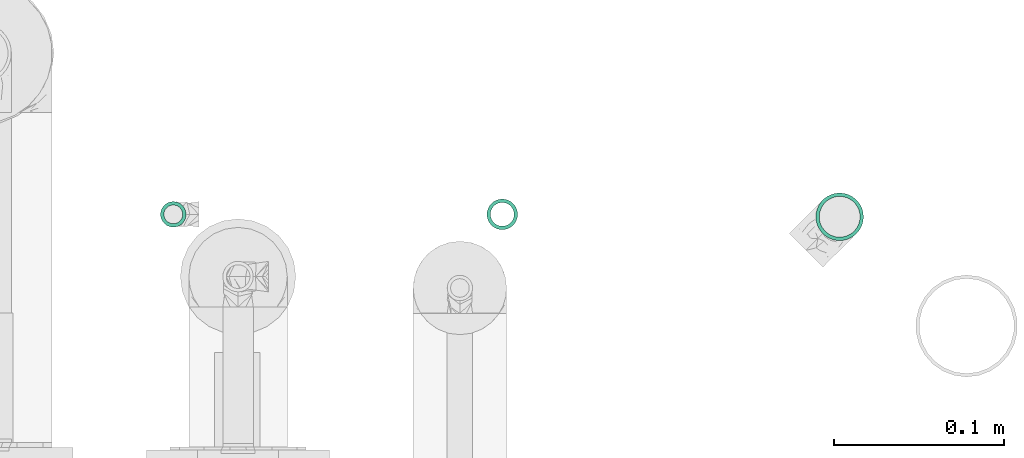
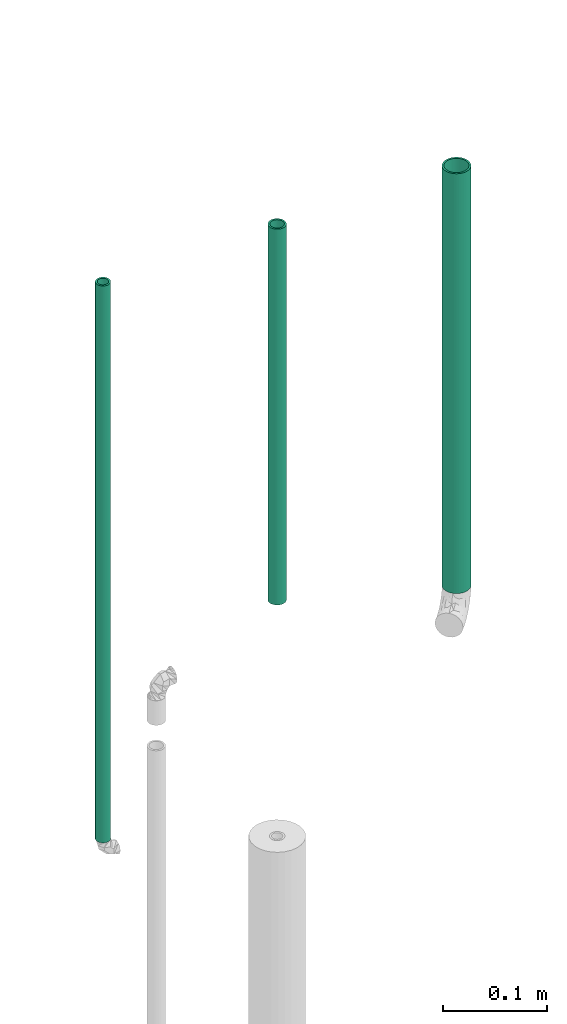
# One storey, part 50 of 78: 3 flow segments.
"""IFC2X3 building model written with IfcOpenShell, lengths in millimetres."""

from ifc_helpers import new_model, entity, si_unit, converted_unit, derived_unit, direction, frame, place, context, subcontext, project, spatial, faceted_brep, type_object, element, save


model = new_model("IFC2X3")

# Units and contexts
model_context = context("Model", 3, precision=0.01, world=frame((0.0, 4.29681676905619e-09, 0.0)), true_north=direction((4.01073788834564e-13, 1.0)))
plan_context = context("Plan", 3, precision=0.01, world=frame((0.0, 4.29681676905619e-09, 0.0)), true_north=direction((4.01073788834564e-13, 1.0)))
body_context = subcontext(model_context, "Body", "Model", "MODEL_VIEW")
ifc_project = project(units=[converted_unit("PLANEANGLEUNIT", "DEGREE", entity("IfcPositiveLengthMeasure", 0.0174532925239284), si_unit("PLANEANGLEUNIT", "RADIAN"), dimensions=[0, 0, 0, 0, 0, 0, 0]), si_unit("AREAUNIT", "SQUARE_METRE"), si_unit("LENGTHUNIT", "METRE", prefix="MILLI"), si_unit("MASSUNIT", "GRAM", prefix="KILO"), si_unit("POWERUNIT", "WATT"), si_unit("PRESSUREUNIT", "PASCAL"), si_unit("FORCEUNIT", "NEWTON", prefix="KILO"), si_unit("ELECTRICVOLTAGEUNIT", "VOLT"), si_unit("ELECTRICCURRENTUNIT", "AMPERE"), si_unit("THERMODYNAMICTEMPERATUREUNIT", "DEGREE_CELSIUS"), si_unit("TIMEUNIT", "SECOND"), si_unit("VOLUMEUNIT", "CUBIC_METRE"), derived_unit("LINEARVELOCITYUNIT", [(si_unit("LENGTHUNIT", "METRE"), 1), (si_unit("TIMEUNIT", "SECOND"), -1)]), derived_unit("VOLUMETRICFLOWRATEUNIT", [(si_unit("VOLUMEUNIT", "CUBIC_METRE"), 1), (si_unit("TIMEUNIT", "SECOND"), -1)]), derived_unit("THERMALTRANSMITTANCEUNIT", [(si_unit("POWERUNIT", "WATT"), 1), (si_unit("THERMODYNAMICTEMPERATUREUNIT", "KELVIN"), -1), (si_unit("AREAUNIT", "SQUARE_METRE"), -1)]), derived_unit("SOUNDPRESSUREUNIT", [(si_unit("PRESSUREUNIT", "PASCAL"), 1)])], contexts=[model_context, plan_context])

# Site, building, storey
site_placement = place(None, frame((0.0, -4.29681676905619e-09, 0.0), z_axis=(0.0, 0.0, 1.0), x_axis=(1.0, 0.0, 0.0)))
site = spatial("IfcSite", under=ifc_project, at=site_placement, Name="ENGM", CompositionType="ELEMENT")
building_placement = place(site_placement, frame((0.0, 4.29681676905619e-09, 0.0), z_axis=(0.0, 0.0, 1.0), x_axis=(1.0, 0.0, 0.0)))
building = spatial("IfcBuilding", under=site, at=building_placement, Name="TH", CompositionType="ELEMENT")
storey_placement = place(building_placement, frame((0.0, 0.0, 205200.0), z_axis=(0.0, 0.0, 1.0), x_axis=(1.0, 0.0, 0.0)))
storey = spatial("IfcBuildingStorey", under=building, at=storey_placement, Name="Nivå D + 1,2 m", CompositionType="ELEMENT", Elevation=205200.0)

# Flow segments
pipe_segment_type = type_object("IfcPipeSegmentType", Name="Kobberrør", PredefinedType="RIGIDSEGMENT")
flow_segment_1_placement = place(storey_placement, frame((895482.33366, 478585.9125, 10318.71516), z_axis=(0.0, 1.0, 0.0), x_axis=(0.0, 0.0, -1.0)))
element("IfcFlowSegment", 1, at=flow_segment_1_placement, inside=storey, type_object=pipe_segment_type, Name="Kobberrør", context=body_context, shape_type="Brep", body=[
    faceted_brep([(1618.71515999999, 5.41644264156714, -0.955064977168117), (1618.71515999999, 5.5, 0.0), (2273.7, 5.5, 0.0), (2273.7, 5.41644264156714, -0.955064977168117), (1618.71515999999, 5.16830941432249, -1.88111078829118), (2273.7, 5.16830941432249, -1.88111078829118), (1618.71515999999, 4.76313972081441, -2.75), (2273.7, 4.76313972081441, -2.75), (1618.71515999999, 4.21324443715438, -3.53533185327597), (2273.7, 4.21324443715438, -3.53533185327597), (1618.71515999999, 3.53533185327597, -4.21324443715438), (2273.7, 3.53533185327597, -4.21324443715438), (1618.71515999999, 2.75, -4.76313972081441), (2273.7, 2.75, -4.76313972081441), (1618.71515999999, 1.88111078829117, -5.1683094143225), (2273.7, 1.88111078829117, -5.1683094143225), (1618.71515999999, 0.955064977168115, -5.41644264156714), (2273.7, 0.955064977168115, -5.41644264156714), (1618.71515999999, -1.01033360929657e-15, -5.5), (2273.7, -1.01033360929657e-15, -5.5), (1618.71515999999, -0.955064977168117, -5.41644264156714), (2273.7, -0.955064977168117, -5.41644264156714), (1618.71515999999, -1.88111078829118, -5.1683094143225), (2273.7, -1.88111078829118, -5.1683094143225), (1618.71515999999, -2.75, -4.76313972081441), (2273.7, -2.75, -4.76313972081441), (1618.71515999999, -3.53533185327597, -4.21324443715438), (2273.7, -3.53533185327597, -4.21324443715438), (1618.71515999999, -4.21324443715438, -3.53533185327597), (2273.7, -4.21324443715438, -3.53533185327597), (1618.71515999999, -4.76313972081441, -2.75), (2273.7, -4.76313972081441, -2.75), (1618.71515999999, -5.1683094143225, -1.88111078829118), (2273.7, -5.1683094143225, -1.88111078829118), (1618.71515999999, -5.41644264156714, -0.955064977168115), (2273.7, -5.41644264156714, -0.955064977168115), (1618.71515999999, -5.5, 6.73555739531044e-16), (2273.7, -5.5, 6.73555739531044e-16), (1618.71515999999, -5.41644264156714, 0.955064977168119), (2273.7, -5.41644264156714, 0.955064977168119), (1618.71515999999, -5.1683094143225, 1.88111078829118), (2273.7, -5.1683094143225, 1.88111078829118), (1618.71515999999, -4.76313972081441, 2.75), (2273.7, -4.76313972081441, 2.75), (1618.71515999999, -4.21324443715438, 3.53533185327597), (2273.7, -4.21324443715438, 3.53533185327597), (1618.71515999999, -3.53533185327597, 4.21324443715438), (2273.7, -3.53533185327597, 4.21324443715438), (1618.71515999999, -2.75, 4.76313972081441), (2273.7, -2.75, 4.76313972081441), (1618.71515999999, -1.88111078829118, 5.1683094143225), (2273.7, -1.88111078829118, 5.1683094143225), (1618.71515999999, -0.955064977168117, 5.41644264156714), (2273.7, -0.955064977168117, 5.41644264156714), (1618.71515999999, 3.36777869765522e-16, 5.5), (2273.7, 3.36777869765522e-16, 5.5), (1618.71515999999, 0.955064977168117, 5.41644264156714), (2273.7, 0.955064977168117, 5.41644264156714), (1618.71515999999, 1.88111078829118, 5.1683094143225), (2273.7, 1.88111078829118, 5.1683094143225), (1618.71515999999, 2.75, 4.76313972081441), (2273.7, 2.75, 4.76313972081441), (1618.71515999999, 3.53533185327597, 4.21324443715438), (2273.7, 3.53533185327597, 4.21324443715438), (1618.71515999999, 4.21324443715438, 3.53533185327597), (2273.7, 4.21324443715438, 3.53533185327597), (1618.71515999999, 4.76313972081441, 2.75), (2273.7, 4.76313972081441, 2.75), (1618.71515999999, 5.1683094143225, 1.88111078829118), (2273.7, 5.1683094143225, 1.88111078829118), (1618.71515999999, 5.41644264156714, 0.955064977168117), (2273.7, 5.41644264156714, 0.955064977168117), (1618.71515999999, 7.5, 0.0), (1618.71515999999, 7.38605814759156, -1.30236133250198), (2273.7, 7.38605814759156, -1.30236133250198), (2273.7, 7.5, 0.0), (1618.71515999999, 7.38605814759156, 1.30236133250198), (2273.7, 7.38605814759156, 1.30236133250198), (1618.71515999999, 7.04769465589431, 2.56515107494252), (2273.7, 7.04769465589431, 2.56515107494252), (1618.71515999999, 6.49519052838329, 3.75), (2273.7, 6.49519052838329, 3.75), (1618.71515999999, 5.74533332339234, 4.82090707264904), (2273.7, 5.74533332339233, 4.82090707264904), (1618.71515999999, 4.82090707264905, 5.74533332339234), (2273.7, 4.82090707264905, 5.74533332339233), (1618.71515999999, 3.75, 6.49519052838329), (2273.7, 3.75, 6.49519052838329), (1618.71515999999, 2.56515107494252, 7.04769465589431), (2273.7, 2.56515107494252, 7.04769465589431), (1618.71515999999, 1.30236133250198, 7.38605814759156), (2273.7, 1.30236133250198, 7.38605814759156), (1618.71515999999, 4.59242549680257e-16, 7.5), (2273.7, 4.59242549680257e-16, 7.5), (1618.71515999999, -1.30236133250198, 7.38605814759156), (2273.7, -1.30236133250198, 7.38605814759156), (1618.71515999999, -2.56515107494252, 7.04769465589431), (2273.7, -2.56515107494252, 7.04769465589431), (1618.71515999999, -3.75, 6.49519052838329), (2273.7, -3.75, 6.49519052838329), (1618.71515999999, -4.82090707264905, 5.74533332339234), (2273.7, -4.82090707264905, 5.74533332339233), (1618.71515999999, -5.74533332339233, 4.82090707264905), (2273.7, -5.74533332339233, 4.82090707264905), (1618.71515999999, -6.49519052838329, 3.75), (2273.7, -6.49519052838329, 3.75), (1618.71515999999, -7.04769465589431, 2.56515107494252), (2273.7, -7.04769465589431, 2.56515107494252), (1618.71515999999, -7.38605814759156, 1.30236133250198), (2273.7, -7.38605814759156, 1.30236133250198), (1618.71515999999, -7.5, 9.18485099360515e-16), (2273.7, -7.5, 9.18485099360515e-16), (1618.71515999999, -7.38605814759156, -1.30236133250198), (2273.7, -7.38605814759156, -1.30236133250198), (1618.71515999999, -7.04769465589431, -2.56515107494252), (2273.7, -7.04769465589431, -2.56515107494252), (1618.71515999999, -6.49519052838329, -3.75), (2273.7, -6.49519052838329, -3.75), (1618.71515999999, -5.74533332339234, -4.82090707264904), (2273.7, -5.74533332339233, -4.82090707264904), (1618.71515999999, -4.82090707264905, -5.74533332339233), (2273.7, -4.82090707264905, -5.74533332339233), (1618.71515999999, -3.75, -6.49519052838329), (2273.7, -3.75, -6.49519052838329), (1618.71515999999, -2.56515107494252, -7.04769465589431), (2273.7, -2.56515107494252, -7.04769465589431), (1618.71515999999, -1.30236133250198, -7.38605814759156), (2273.7, -1.30236133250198, -7.38605814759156), (1618.71515999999, -1.37772764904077e-15, -7.5), (2273.7, -1.37772764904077e-15, -7.5), (1618.71515999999, 1.30236133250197, -7.38605814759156), (2273.7, 1.30236133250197, -7.38605814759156), (1618.71515999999, 2.56515107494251, -7.04769465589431), (2273.7, 2.56515107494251, -7.04769465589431), (1618.71515999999, 3.75, -6.49519052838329), (2273.7, 3.75, -6.49519052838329), (1618.71515999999, 4.82090707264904, -5.74533332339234), (2273.7, 4.82090707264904, -5.74533332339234), (1618.71515999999, 5.74533332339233, -4.82090707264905), (2273.7, 5.74533332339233, -4.82090707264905), (1618.71515999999, 6.49519052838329, -3.75), (2273.7, 6.49519052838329, -3.75), (1618.71515999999, 7.04769465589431, -2.56515107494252), (2273.7, 7.04769465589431, -2.56515107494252)], [[[0, 1, 2, 3]], [[4, 0, 3, 5]], [[6, 4, 5, 7]], [[8, 6, 7, 9]], [[10, 8, 9, 11]], [[12, 10, 11, 13]], [[14, 12, 13, 15]], [[16, 14, 15, 17]], [[18, 16, 17, 19]], [[20, 18, 19, 21]], [[22, 20, 21, 23]], [[24, 22, 23, 25]], [[26, 24, 25, 27]], [[28, 26, 27, 29]], [[30, 28, 29, 31]], [[32, 30, 31, 33]], [[34, 32, 33, 35]], [[36, 34, 35, 37]], [[38, 36, 37, 39]], [[40, 38, 39, 41]], [[42, 40, 41, 43]], [[44, 42, 43, 45]], [[46, 44, 45, 47]], [[48, 46, 47, 49]], [[50, 48, 49, 51]], [[52, 50, 51, 53]], [[54, 52, 53, 55]], [[56, 54, 55, 57]], [[58, 56, 57, 59]], [[60, 58, 59, 61]], [[62, 60, 61, 63]], [[64, 62, 63, 65]], [[66, 64, 65, 67]], [[68, 66, 67, 69]], [[70, 68, 69, 71]], [[1, 70, 71, 2]], [[72, 73, 74, 75]], [[76, 72, 75, 77]], [[78, 76, 77, 79]], [[80, 78, 79, 81]], [[82, 80, 81, 83]], [[84, 82, 83, 85]], [[86, 84, 85, 87]], [[88, 86, 87, 89]], [[90, 88, 89, 91]], [[92, 90, 91, 93]], [[94, 92, 93, 95]], [[96, 94, 95, 97]], [[98, 96, 97, 99]], [[100, 98, 99, 101]], [[102, 100, 101, 103]], [[104, 102, 103, 105]], [[106, 104, 105, 107]], [[108, 106, 107, 109]], [[110, 108, 109, 111]], [[112, 110, 111, 113]], [[114, 112, 113, 115]], [[116, 114, 115, 117]], [[118, 116, 117, 119]], [[120, 118, 119, 121]], [[122, 120, 121, 123]], [[124, 122, 123, 125]], [[126, 124, 125, 127]], [[128, 126, 127, 129]], [[130, 128, 129, 131]], [[132, 130, 131, 133]], [[134, 132, 133, 135]], [[136, 134, 135, 137]], [[138, 136, 137, 139]], [[140, 138, 139, 141]], [[142, 140, 141, 143]], [[73, 142, 143, 74]], [[75, 74, 143, 141, 139, 137, 135, 133, 131, 129, 127, 125, 123, 121, 119, 117, 115, 113, 111, 109, 107, 105, 103, 101, 99, 97, 95, 93, 91, 89, 87, 85, 83, 81, 79, 77], [2, 71, 69, 67, 65, 63, 61, 59, 57, 55, 53, 51, 49, 47, 45, 43, 41, 39, 37, 35, 33, 31, 29, 27, 25, 23, 21, 19, 17, 15, 13, 11, 9, 7, 5, 3]], [[76, 78, 80, 82, 84, 86, 88, 90, 92, 94, 96, 98, 100, 102, 104, 106, 108, 110, 112, 114, 116, 118, 120, 122, 124, 126, 128, 130, 132, 134, 136, 138, 140, 142, 73, 72], [4, 6, 8, 10, 12, 14, 16, 18, 20, 22, 24, 26, 28, 30, 32, 34, 36, 38, 40, 42, 44, 46, 48, 50, 52, 54, 56, 58, 60, 62, 64, 66, 68, 70, 1, 0]]], orient=[[False], [False], [False], [False], [False], [False], [False], [False], [False], [False], [False], [False], [False], [False], [False], [False], [False], [False], [False], [False], [False], [False], [False], [False], [False], [False], [False], [False], [False], [False], [False], [False], [False], [False], [False], [False], [False], [False], [False], [False], [False], [False], [False], [False], [False], [False], [False], [False], [False], [False], [False], [False], [False], [False], [False], [False], [False], [False], [False], [False], [False], [False], [False], [False], [False], [False], [False], [False], [False], [False], [False], [False], [False, False], [False, False]]),
])
flow_segment_2_placement = place(storey_placement, frame((895676.1125, 478585.9125, 8258.0), z_axis=(0.0, 1.0, 0.0), x_axis=(0.0, 0.0, 1.0)))
element("IfcFlowSegment", 2, at=flow_segment_2_placement, inside=storey, type_object=pipe_segment_type, Name="Kobberrør", context=body_context, shape_type="Brep", body=[
    faceted_brep([(442.0, 7.0, 0.0), (442.0, 6.89365427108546, -1.21553724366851), (0.0, 6.89365427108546, -1.21553724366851), (0.0, 7.0, 0.0), (442.0, 6.57784834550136, -2.39414100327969), (0.0, 6.57784834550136, -2.39414100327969), (442.0, 6.06217782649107, -3.5), (0.0, 6.06217782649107, -3.5), (442.0, 5.36231110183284, -4.49951326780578), (0.0, 5.36231110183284, -4.49951326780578), (442.0, 4.49951326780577, -5.36231110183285), (0.0, 4.49951326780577, -5.36231110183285), (442.0, 3.5, -6.06217782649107), (0.0, 3.5, -6.06217782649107), (442.0, 2.39414100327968, -6.57784834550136), (0.0, 2.39414100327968, -6.57784834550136), (442.0, 1.21553724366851, -6.89365427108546), (0.0, 1.21553724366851, -6.89365427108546), (442.0, -1.28587913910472e-15, -7.0), (0.0, -1.28587913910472e-15, -7.0), (442.0, -1.21553724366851, -6.89365427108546), (0.0, -1.21553724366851, -6.89365427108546), (442.0, -2.39414100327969, -6.57784834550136), (0.0, -2.39414100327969, -6.57784834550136), (442.0, -3.5, -6.06217782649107), (0.0, -3.5, -6.06217782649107), (442.0, -4.49951326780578, -5.36231110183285), (0.0, -4.49951326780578, -5.36231110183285), (442.0, -5.36231110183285, -4.49951326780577), (0.0, -5.36231110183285, -4.49951326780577), (442.0, -6.06217782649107, -3.5), (0.0, -6.06217782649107, -3.5), (442.0, -6.57784834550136, -2.39414100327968), (0.0, -6.57784834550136, -2.39414100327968), (442.0, -6.89365427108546, -1.21553724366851), (0.0, -6.89365427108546, -1.21553724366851), (442.0, -7.0, 8.57252759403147e-16), (0.0, -7.0, 8.57252759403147e-16), (442.0, -6.89365427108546, 1.21553724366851), (0.0, -6.89365427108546, 1.21553724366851), (442.0, -6.57784834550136, 2.39414100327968), (0.0, -6.57784834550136, 2.39414100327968), (442.0, -6.06217782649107, 3.5), (0.0, -6.06217782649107, 3.5), (442.0, -5.36231110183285, 4.49951326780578), (0.0, -5.36231110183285, 4.49951326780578), (442.0, -4.49951326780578, 5.36231110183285), (0.0, -4.49951326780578, 5.36231110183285), (442.0, -3.5, 6.06217782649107), (0.0, -3.5, 6.06217782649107), (442.0, -2.39414100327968, 6.57784834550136), (0.0, -2.39414100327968, 6.57784834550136), (442.0, -1.21553724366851, 6.89365427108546), (0.0, -1.21553724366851, 6.89365427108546), (442.0, 4.28626379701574e-16, 7.0), (0.0, 4.28626379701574e-16, 7.0), (442.0, 1.21553724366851, 6.89365427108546), (0.0, 1.21553724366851, 6.89365427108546), (442.0, 2.39414100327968, 6.57784834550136), (0.0, 2.39414100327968, 6.57784834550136), (442.0, 3.5, 6.06217782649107), (0.0, 3.5, 6.06217782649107), (442.0, 4.49951326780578, 5.36231110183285), (0.0, 4.49951326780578, 5.36231110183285), (442.0, 5.36231110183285, 4.49951326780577), (0.0, 5.36231110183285, 4.49951326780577), (442.0, 6.06217782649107, 3.5), (0.0, 6.06217782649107, 3.5), (442.0, 6.57784834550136, 2.39414100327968), (0.0, 6.57784834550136, 2.39414100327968), (442.0, 6.89365427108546, 1.21553724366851), (0.0, 6.89365427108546, 1.21553724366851), (442.0, 8.86326977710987, -1.56283359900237), (442.0, 9.0, 0.0), (0.0, 9.0, 0.0), (0.0, 8.86326977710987, -1.56283359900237), (442.0, 8.86326977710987, 1.56283359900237), (0.0, 8.86326977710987, 1.56283359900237), (442.0, 8.45723358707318, 3.07818128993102), (0.0, 8.45723358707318, 3.07818128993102), (442.0, 7.79422863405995, 4.5), (0.0, 7.79422863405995, 4.5), (442.0, 6.8943999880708, 5.78508848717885), (0.0, 6.8943999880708, 5.78508848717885), (442.0, 5.78508848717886, 6.8943999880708), (0.0, 5.78508848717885, 6.8943999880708), (442.0, 4.5, 7.79422863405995), (0.0, 4.5, 7.79422863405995), (442.0, 3.07818128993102, 8.45723358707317), (0.0, 3.07818128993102, 8.45723358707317), (442.0, 1.56283359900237, 8.86326977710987), (0.0, 1.56283359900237, 8.86326977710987), (442.0, 5.51091059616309e-16, 9.0), (0.0, 5.51091059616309e-16, 9.0), (442.0, -1.56283359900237, 8.86326977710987), (0.0, -1.56283359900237, 8.86326977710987), (442.0, -3.07818128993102, 8.45723358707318), (0.0, -3.07818128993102, 8.45723358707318), (442.0, -4.5, 7.79422863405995), (0.0, -4.5, 7.79422863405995), (442.0, -5.78508848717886, 6.8943999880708), (0.0, -5.78508848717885, 6.8943999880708), (442.0, -6.8943999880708, 5.78508848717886), (0.0, -6.8943999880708, 5.78508848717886), (442.0, -7.79422863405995, 4.5), (0.0, -7.79422863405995, 4.5), (442.0, -8.45723358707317, 3.07818128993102), (0.0, -8.45723358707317, 3.07818128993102), (442.0, -8.86326977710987, 1.56283359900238), (0.0, -8.86326977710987, 1.56283359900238), (442.0, -9.0, 1.10218211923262e-15), (0.0, -9.0, 1.10218211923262e-15), (442.0, -8.86326977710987, -1.56283359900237), (0.0, -8.86326977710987, -1.56283359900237), (442.0, -8.45723358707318, -3.07818128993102), (0.0, -8.45723358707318, -3.07818128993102), (442.0, -7.79422863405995, -4.5), (0.0, -7.79422863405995, -4.5), (442.0, -6.8943999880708, -5.78508848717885), (0.0, -6.8943999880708, -5.78508848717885), (442.0, -5.78508848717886, -6.8943999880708), (0.0, -5.78508848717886, -6.8943999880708), (442.0, -4.5, -7.79422863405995), (0.0, -4.5, -7.79422863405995), (442.0, -3.07818128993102, -8.45723358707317), (0.0, -3.07818128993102, -8.45723358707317), (442.0, -1.56283359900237, -8.86326977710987), (0.0, -1.56283359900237, -8.86326977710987), (442.0, -1.65327317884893e-15, -9.0), (0.0, -1.65327317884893e-15, -9.0), (442.0, 1.56283359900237, -8.86326977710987), (0.0, 1.56283359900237, -8.86326977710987), (442.0, 3.07818128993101, -8.45723358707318), (0.0, 3.07818128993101, -8.45723358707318), (442.0, 4.5, -7.79422863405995), (0.0, 4.5, -7.79422863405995), (442.0, 5.78508848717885, -6.8943999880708), (0.0, 5.78508848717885, -6.8943999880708), (442.0, 6.8943999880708, -5.78508848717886), (0.0, 6.8943999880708, -5.78508848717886), (442.0, 7.79422863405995, -4.5), (0.0, 7.79422863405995, -4.5), (442.0, 8.45723358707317, -3.07818128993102), (0.0, 8.45723358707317, -3.07818128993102)], [[[0, 1, 2, 3]], [[1, 4, 5, 2]], [[4, 6, 7, 5]], [[6, 8, 9, 7]], [[8, 10, 11, 9]], [[10, 12, 13, 11]], [[12, 14, 15, 13]], [[14, 16, 17, 15]], [[16, 18, 19, 17]], [[18, 20, 21, 19]], [[20, 22, 23, 21]], [[22, 24, 25, 23]], [[24, 26, 27, 25]], [[26, 28, 29, 27]], [[28, 30, 31, 29]], [[30, 32, 33, 31]], [[32, 34, 35, 33]], [[34, 36, 37, 35]], [[36, 38, 39, 37]], [[38, 40, 41, 39]], [[40, 42, 43, 41]], [[42, 44, 45, 43]], [[44, 46, 47, 45]], [[46, 48, 49, 47]], [[48, 50, 51, 49]], [[50, 52, 53, 51]], [[52, 54, 55, 53]], [[54, 56, 57, 55]], [[56, 58, 59, 57]], [[58, 60, 61, 59]], [[60, 62, 63, 61]], [[62, 64, 65, 63]], [[64, 66, 67, 65]], [[66, 68, 69, 67]], [[68, 70, 71, 69]], [[70, 0, 3, 71]], [[72, 73, 74, 75]], [[73, 76, 77, 74]], [[76, 78, 79, 77]], [[78, 80, 81, 79]], [[80, 82, 83, 81]], [[82, 84, 85, 83]], [[84, 86, 87, 85]], [[86, 88, 89, 87]], [[88, 90, 91, 89]], [[90, 92, 93, 91]], [[92, 94, 95, 93]], [[94, 96, 97, 95]], [[96, 98, 99, 97]], [[98, 100, 101, 99]], [[100, 102, 103, 101]], [[102, 104, 105, 103]], [[104, 106, 107, 105]], [[106, 108, 109, 107]], [[108, 110, 111, 109]], [[110, 112, 113, 111]], [[112, 114, 115, 113]], [[114, 116, 117, 115]], [[116, 118, 119, 117]], [[118, 120, 121, 119]], [[120, 122, 123, 121]], [[122, 124, 125, 123]], [[124, 126, 127, 125]], [[126, 128, 129, 127]], [[128, 130, 131, 129]], [[130, 132, 133, 131]], [[132, 134, 135, 133]], [[134, 136, 137, 135]], [[136, 138, 139, 137]], [[138, 140, 141, 139]], [[140, 142, 143, 141]], [[142, 72, 75, 143]], [[75, 74, 77, 79, 81, 83, 85, 87, 89, 91, 93, 95, 97, 99, 101, 103, 105, 107, 109, 111, 113, 115, 117, 119, 121, 123, 125, 127, 129, 131, 133, 135, 137, 139, 141, 143], [3, 2, 5, 7, 9, 11, 13, 15, 17, 19, 21, 23, 25, 27, 29, 31, 33, 35, 37, 39, 41, 43, 45, 47, 49, 51, 53, 55, 57, 59, 61, 63, 65, 67, 69, 71]], [[142, 140, 138, 136, 134, 132, 130, 128, 126, 124, 122, 120, 118, 116, 114, 112, 110, 108, 106, 104, 102, 100, 98, 96, 94, 92, 90, 88, 86, 84, 82, 80, 78, 76, 73, 72], [70, 68, 66, 64, 62, 60, 58, 56, 54, 52, 50, 48, 46, 44, 42, 40, 38, 36, 34, 32, 30, 28, 26, 24, 22, 20, 18, 16, 14, 12, 10, 8, 6, 4, 1, 0]]], orient=[[False], [False], [False], [False], [False], [False], [False], [False], [False], [False], [False], [False], [False], [False], [False], [False], [False], [False], [False], [False], [False], [False], [False], [False], [False], [False], [False], [False], [False], [False], [False], [False], [False], [False], [False], [False], [False], [False], [False], [False], [False], [False], [False], [False], [False], [False], [False], [False], [False], [False], [False], [False], [False], [False], [False], [False], [False], [False], [False], [False], [False], [False], [False], [False], [False], [False], [False], [False], [False], [False], [False], [False], [False, False], [False, False]]),
])
flow_segment_3_placement = place(storey_placement, frame((895874.84885, 478584.45798, 10293.98639), z_axis=(-1.0, 0.0, 0.0), x_axis=(0.0, 9.9999999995e-06, -0.99999999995)))
element("IfcFlowSegment", 3, at=flow_segment_3_placement, inside=storey, type_object=pipe_segment_type, Name="Kobberrør", context=body_context, shape_type="Brep", body=[
    faceted_brep([(1593.98560259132, 11.8176930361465, -2.08377813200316), (1593.98560259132, 12.0, 0.0), (2087.8, 12.0, 0.0), (2087.8, 11.8176930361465, -2.08377813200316), (1593.98627731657, 11.2763114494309, -4.10424171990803), (2087.8, 11.2763114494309, -4.10424171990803), (1593.98628615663, 10.3923048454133, -6.00000000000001), (2087.8, 10.3923048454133, -6.00000000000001), (1593.98629815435, 9.19253331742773, -7.71345131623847), (2087.8, 9.19253331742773, -7.71345131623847), (1593.98631294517, 7.71345131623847, -9.19253331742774), (2087.8, 7.71345131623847, -9.19253331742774), (1593.98633007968, 6.0, -10.3923048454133), (2087.8, 6.0, -10.3923048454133), (1593.98634903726, 4.10424171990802, -11.2763114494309), (2087.8, 4.10424171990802, -11.2763114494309), (1593.9863692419, 2.08377813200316, -11.8176930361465), (2087.8, 2.08377813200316, -11.8176930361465), (1593.98639007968, -2.20436423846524e-15, -12.0), (2087.8, -2.20436423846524e-15, -12.0), (1593.98641091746, -2.08377813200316, -11.8176930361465), (2087.8, -2.08377813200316, -11.8176930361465), (1593.9864311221, -4.10424171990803, -11.2763114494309), (2087.8, -4.10424171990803, -11.2763114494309), (1593.98645007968, -6.00000000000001, -10.3923048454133), (2087.8, -6.00000000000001, -10.3923048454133), (1593.98646721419, -7.71345131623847, -9.19253331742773), (2087.8, -7.71345131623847, -9.19253331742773), (1593.98648200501, -9.19253331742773, -7.71345131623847), (2087.8, -9.19253331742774, -7.71345131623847), (1593.98649400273, -10.3923048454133, -6.0), (2087.8, -10.3923048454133, -6.0), (1593.98650284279, -11.2763114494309, -4.10424171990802), (2087.8, -11.2763114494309, -4.10424171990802), (1593.98650825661, -11.8176930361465, -2.08377813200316), (2087.8, -11.8176930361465, -2.08377813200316), (1593.97379295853, -12.0, 1.46957615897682e-15), (2087.8, -12.0, 1.46957615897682e-15), (1593.98584259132, -11.8176930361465, 2.08377813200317), (2087.8, -11.8176930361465, 2.08377813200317), (1593.98650284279, -11.2763114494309, 4.10424171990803), (2087.8, -11.2763114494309, 4.10424171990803), (1593.98649400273, -10.3923048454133, 6.0), (2087.8, -10.3923048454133, 6.0), (1593.98648200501, -9.19253331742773, 7.71345131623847), (2087.8, -9.19253331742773, 7.71345131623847), (1593.98646721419, -7.71345131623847, 9.19253331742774), (2087.8, -7.71345131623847, 9.19253331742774), (1593.98645007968, -6.0, 10.3923048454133), (2087.8, -6.0, 10.3923048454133), (1593.9864311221, -4.10424171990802, 11.2763114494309), (2087.8, -4.10424171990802, 11.2763114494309), (1593.98641091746, -2.08377813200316, 11.8176930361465), (2087.8, -2.08377813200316, 11.8176930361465), (1593.98639007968, 7.34788079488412e-16, 12.0), (2087.8, 7.34788079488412e-16, 12.0), (1593.9863692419, 2.08377813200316, 11.8176930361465), (2087.8, 2.08377813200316, 11.8176930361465), (1593.98634903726, 4.10424171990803, 11.2763114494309), (2087.8, 4.10424171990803, 11.2763114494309), (1593.98633007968, 6.0, 10.3923048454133), (2087.8, 6.0, 10.3923048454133), (1593.98631294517, 7.71345131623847, 9.19253331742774), (2087.8, 7.71345131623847, 9.19253331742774), (1593.98629815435, 9.19253331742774, 7.71345131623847), (2087.8, 9.19253331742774, 7.71345131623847), (1593.98628615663, 10.3923048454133, 6.0), (2087.8, 10.3923048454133, 6.0), (1593.98627731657, 11.2763114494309, 4.10424171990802), (2087.8, 11.2763114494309, 4.10424171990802), (1593.98627190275, 11.8176930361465, 2.08377813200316), (2087.8, 11.8176930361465, 2.08377813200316), (1593.98558259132, 14.0, 0.0), (1593.98558259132, 13.7873085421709, -2.43107448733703), (2087.8, 13.7873085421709, -2.43107448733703), (2087.8, 14.0, 0.0), (1593.97353295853, 13.7873085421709, 2.43107448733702), (2087.8, 13.7873085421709, 2.43107448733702), (1593.98625852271, 13.1556966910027, 4.78828200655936), (2087.8, 13.1556966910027, 4.78828200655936), (1593.98626883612, 12.1243556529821, 7.0), (2087.8, 12.1243556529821, 7.0), (1593.98628283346, 10.7246222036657, 8.99902653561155), (2087.8, 10.7246222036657, 8.99902653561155), (1593.98630008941, 8.99902653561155, 10.7246222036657), (2087.8, 8.99902653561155, 10.7246222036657), (1593.98632007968, 7.0, 12.1243556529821), (2087.8, 7.0, 12.1243556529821), (1593.98634219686, 4.78828200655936, 13.1556966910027), (2087.8, 4.78828200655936, 13.1556966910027), (1593.98636576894, 2.43107448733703, 13.7873085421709), (2087.8, 2.43107448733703, 13.7873085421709), (1593.98639007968, 8.57252759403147e-16, 14.0), (2087.8, 8.57252759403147e-16, 14.0), (1593.98641439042, -2.43107448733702, 13.7873085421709), (2087.8, -2.43107448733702, 13.7873085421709), (1593.9864379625, -4.78828200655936, 13.1556966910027), (2087.8, -4.78828200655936, 13.1556966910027), (1593.98646007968, -7.0, 12.1243556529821), (2087.8, -7.0, 12.1243556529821), (1593.98648006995, -8.99902653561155, 10.7246222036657), (2087.8, -8.99902653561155, 10.7246222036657), (1593.9864973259, -10.7246222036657, 8.99902653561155), (2087.8, -10.7246222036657, 8.99902653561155), (1593.98651132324, -12.1243556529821, 7.0), (2087.8, -12.1243556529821, 7.0), (1593.98652163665, -13.1556966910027, 4.78828200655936), (2087.8, -13.1556966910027, 4.78828200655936), (1593.98652795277, -13.7873085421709, 2.43107448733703), (2087.8, -13.7873085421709, 2.43107448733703), (1593.98586259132, -14.0, 1.71450551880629e-15), (2087.8, -14.0, 1.71450551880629e-15), (1593.97381295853, -13.7873085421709, -2.43107448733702), (2087.8, -13.7873085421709, -2.43107448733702), (1593.98652163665, -13.1556966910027, -4.78828200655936), (2087.8, -13.1556966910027, -4.78828200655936), (1593.98651132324, -12.1243556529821, -7.0), (2087.8, -12.1243556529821, -7.0), (1593.9864973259, -10.7246222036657, -8.99902653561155), (2087.8, -10.7246222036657, -8.99902653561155), (1593.98648006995, -8.99902653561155, -10.7246222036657), (2087.8, -8.99902653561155, -10.7246222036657), (1593.98646007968, -7.00000000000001, -12.1243556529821), (2087.8, -7.00000000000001, -12.1243556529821), (1593.9864379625, -4.78828200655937, -13.1556966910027), (2087.8, -4.78828200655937, -13.1556966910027), (1593.98641439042, -2.43107448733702, -13.7873085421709), (2087.8, -2.43107448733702, -13.7873085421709), (1593.98639007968, -2.57175827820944e-15, -14.0), (2087.8, -2.57175827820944e-15, -14.0), (1593.98636576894, 2.43107448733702, -13.7873085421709), (2087.8, 2.43107448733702, -13.7873085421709), (1593.98634219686, 4.78828200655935, -13.1556966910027), (2087.8, 4.78828200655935, -13.1556966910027), (1593.98632007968, 7.0, -12.1243556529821), (2087.8, 7.0, -12.1243556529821), (1593.98630008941, 8.99902653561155, -10.7246222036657), (2087.8, 8.99902653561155, -10.7246222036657), (1593.98628283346, 10.7246222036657, -8.99902653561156), (2087.8, 10.7246222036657, -8.99902653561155), (1593.98626883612, 12.1243556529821, -7.00000000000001), (2087.8, 12.1243556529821, -7.00000000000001), (1593.98625852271, 13.1556966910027, -4.78828200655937), (2087.8, 13.1556966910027, -4.78828200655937), (1593.98625220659, 13.7873085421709, 2.43107448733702), (1593.98653007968, -14.0, 1.71450551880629e-15), (1593.98652795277, -13.7873085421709, -2.43107448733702), (1593.98625220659, 13.7873085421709, -2.43107448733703), (1593.98625007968, 14.0, 0.0), (1593.98651007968, -12.0, 1.46957615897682e-15), (1593.98650825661, -11.8176930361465, 2.08377813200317), (1593.98627007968, 12.0, 0.0), (1593.98627190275, 11.8176930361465, -2.08377813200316)], [[[0, 1, 2, 3]], [[4, 0, 3, 5]], [[6, 4, 5, 7]], [[8, 6, 7, 9]], [[10, 8, 9, 11]], [[12, 10, 11, 13]], [[14, 12, 13, 15]], [[16, 14, 15, 17]], [[18, 16, 17, 19]], [[20, 18, 19, 21]], [[22, 20, 21, 23]], [[24, 22, 23, 25]], [[26, 24, 25, 27]], [[28, 26, 27, 29]], [[30, 28, 29, 31]], [[32, 30, 31, 33]], [[34, 32, 33, 35]], [[36, 34, 35, 37]], [[38, 36, 37, 39]], [[40, 38, 39, 41]], [[42, 40, 41, 43]], [[44, 42, 43, 45]], [[46, 44, 45, 47]], [[48, 46, 47, 49]], [[50, 48, 49, 51]], [[52, 50, 51, 53]], [[54, 52, 53, 55]], [[56, 54, 55, 57]], [[58, 56, 57, 59]], [[60, 58, 59, 61]], [[62, 60, 61, 63]], [[64, 62, 63, 65]], [[66, 64, 65, 67]], [[68, 66, 67, 69]], [[70, 68, 69, 71]], [[1, 70, 71, 2]], [[72, 73, 74, 75]], [[76, 72, 75, 77]], [[78, 76, 77, 79]], [[80, 78, 79, 81]], [[82, 80, 81, 83]], [[84, 82, 83, 85]], [[86, 84, 85, 87]], [[88, 86, 87, 89]], [[90, 88, 89, 91]], [[92, 90, 91, 93]], [[94, 92, 93, 95]], [[96, 94, 95, 97]], [[98, 96, 97, 99]], [[100, 98, 99, 101]], [[102, 100, 101, 103]], [[104, 102, 103, 105]], [[106, 104, 105, 107]], [[108, 106, 107, 109]], [[110, 108, 109, 111]], [[112, 110, 111, 113]], [[114, 112, 113, 115]], [[116, 114, 115, 117]], [[118, 116, 117, 119]], [[120, 118, 119, 121]], [[122, 120, 121, 123]], [[124, 122, 123, 125]], [[126, 124, 125, 127]], [[128, 126, 127, 129]], [[130, 128, 129, 131]], [[132, 130, 131, 133]], [[134, 132, 133, 135]], [[136, 134, 135, 137]], [[138, 136, 137, 139]], [[140, 138, 139, 141]], [[142, 140, 141, 143]], [[73, 142, 143, 74]], [[75, 74, 143, 141, 139, 137, 135, 133, 131, 129, 127, 125, 123, 121, 119, 117, 115, 113, 111, 109, 107, 105, 103, 101, 99, 97, 95, 93, 91, 89, 87, 85, 83, 81, 79, 77], [2, 71, 69, 67, 65, 63, 61, 59, 57, 55, 53, 51, 49, 47, 45, 43, 41, 39, 37, 35, 33, 31, 29, 27, 25, 23, 21, 19, 17, 15, 13, 11, 9, 7, 5, 3]], [[144, 78, 80, 82, 84, 86, 88, 90, 92, 94, 96, 98, 100, 102, 104, 106, 108, 145, 146, 114, 116, 118, 120, 122, 124, 126, 128, 130, 132, 134, 136, 138, 140, 142, 147, 148], [4, 6, 8, 10, 12, 14, 16, 18, 20, 22, 24, 26, 28, 30, 32, 34, 149, 150, 40, 42, 44, 46, 48, 50, 52, 54, 56, 58, 60, 62, 64, 66, 68, 70, 151, 152]]], orient=[[False], [False], [False], [False], [False], [False], [False], [False], [False], [False], [False], [False], [False], [False], [False], [False], [False], [False], [False], [False], [False], [False], [False], [False], [False], [False], [False], [False], [False], [False], [False], [False], [False], [False], [False], [False], [False], [False], [False], [False], [False], [False], [False], [False], [False], [False], [False], [False], [False], [False], [False], [False], [False], [False], [False], [False], [False], [False], [False], [False], [False], [False], [False], [False], [False], [False], [False], [False], [False], [False], [False], [False], [False, False], [False, False]]),
])

save(model, "model.ifc")
